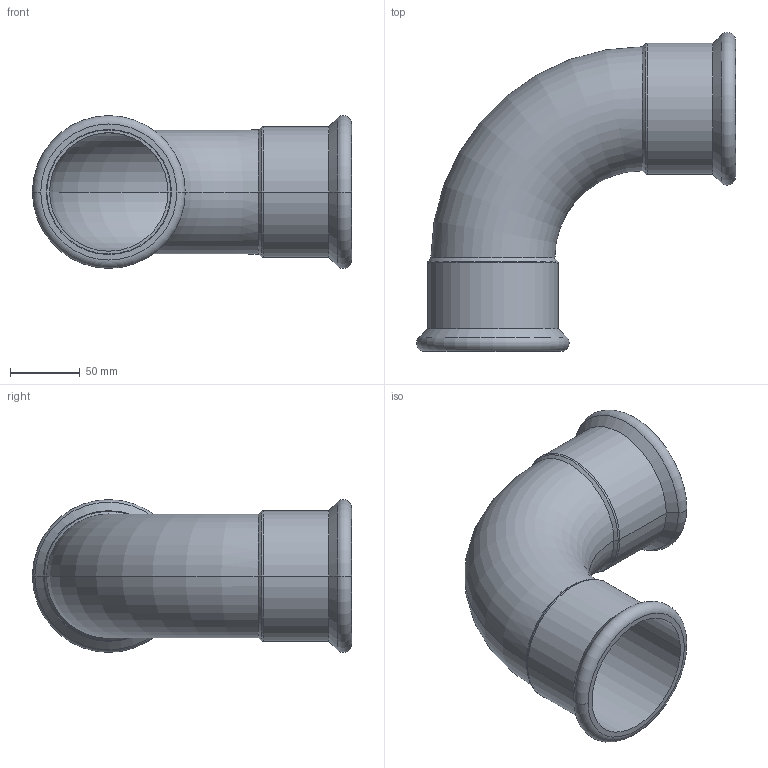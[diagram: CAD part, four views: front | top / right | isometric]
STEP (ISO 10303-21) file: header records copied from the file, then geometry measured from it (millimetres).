
FILE_DESCRIPTION(('CoCreate Modeling STEP Export'),'2;1');
FILE_NAME('C1408 88.9x88.9.stp','2014-11-07T16:47:10',(''),(''),'CoCreate Modeling STEP processor for AP214 (Solid Model)','CoCreate Modeling 17.00A 17-Jun-2010 (C) Parametric Technology GmbH','');
FILE_SCHEMA(('AUTOMOTIVE_DESIGN { 1 0 10303 214 1 1 1 1 }'));
Length unit declared in the file: millimetre
Products named in the file (2): C1408_89x89
Assembly tree (1 placements, depth 2):
  C1408_89x89
    C1408_89x89
Bounding box: 228.74 x 228.74 x 109.48 mm (x, y, z)
Volume: 228608.8 mm3; surface area: 178686.6 mm2
Topology: 1 solids, 1 shells, 42 faces, 88 edges, 52 vertices
Faces by surface type: cylinder 16, torus 12, cone 8, plane 6
Entity records: 1743 total; most frequent: CARTESIAN_POINT 918, ORIENTED_EDGE 176, DIRECTION 150, EDGE_CURVE 88, AXIS2_PLACEMENT_3D 63, VERTEX_POINT 52, EDGE_LOOP 48, FACE_OUTER_BOUND 42
